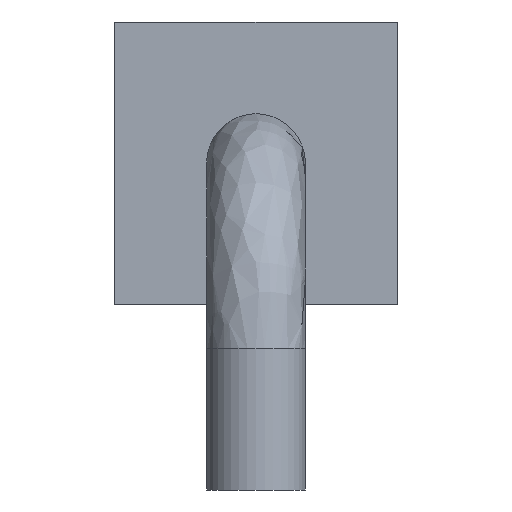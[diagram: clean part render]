
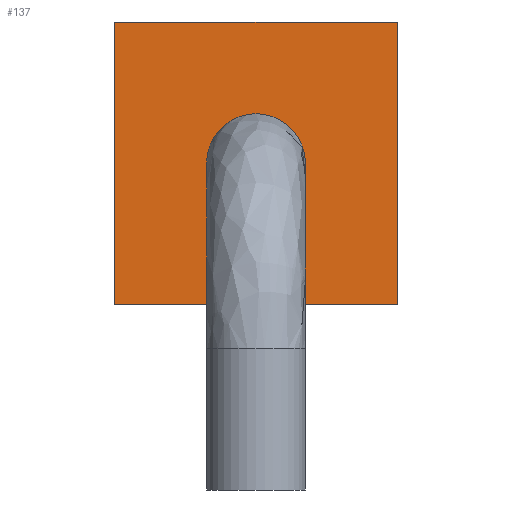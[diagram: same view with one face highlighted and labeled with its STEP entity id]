
A CAD part, front view. The second image highlights one B-rep face of the part: STEP entity #137.
In plain terms, the highlighted planar face has unit normal (0, -1, 0).
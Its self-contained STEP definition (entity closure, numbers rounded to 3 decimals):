
#7=CARTESIAN_POINT('',(30.0,-12.0,-30.0));
#8=VERTEX_POINT('',#7);
#9=CARTESIAN_POINT('',(-30.0,-12.0,-30.0));
#10=VERTEX_POINT('',#9);
#11=CARTESIAN_POINT('',(30.0,-12.0,-30.0));
#12=DIRECTION('',(-1.0,0.0,0.0));
#13=VECTOR('',#12,60.0);
#14=LINE('',#11,#13);
#15=EDGE_CURVE('',#8,#10,#14,.T.);
#47=CARTESIAN_POINT('',(-30.0,-12.0,30.0));
#48=VERTEX_POINT('',#47);
#49=CARTESIAN_POINT('',(-30.0,-12.0,-30.0));
#50=DIRECTION('',(0.0,0.0,1.0));
#51=VECTOR('',#50,60.0);
#52=LINE('',#49,#51);
#53=EDGE_CURVE('',#10,#48,#52,.T.);
#78=CARTESIAN_POINT('',(30.0,-12.0,30.0));
#79=VERTEX_POINT('',#78);
#80=CARTESIAN_POINT('',(-30.0,-12.0,30.0));
#81=DIRECTION('',(1.0,0.0,0.0));
#82=VECTOR('',#81,60.0);
#83=LINE('',#80,#82);
#84=EDGE_CURVE('',#48,#79,#83,.T.);
#109=CARTESIAN_POINT('',(30.0,-12.0,30.0));
#110=DIRECTION('',(0.0,0.0,-1.0));
#111=VECTOR('',#110,60.0);
#112=LINE('',#109,#111);
#113=EDGE_CURVE('',#79,#8,#112,.T.);
#126=CARTESIAN_POINT('',(36.001,-12.0,-36.001));
#127=DIRECTION('',(0.0,1.0,0.0));
#128=DIRECTION('',(-1.0,0.0,0.0));
#129=AXIS2_PLACEMENT_3D('',#126,#127,#128);
#130=PLANE('',#129);
#131=ORIENTED_EDGE('',*,*,#113,.F.);
#132=ORIENTED_EDGE('',*,*,#84,.F.);
#133=ORIENTED_EDGE('',*,*,#53,.F.);
#134=ORIENTED_EDGE('',*,*,#15,.F.);
#135=EDGE_LOOP('',(#131,#132,#133,#134));
#136=FACE_OUTER_BOUND('',#135,.T.);
#137=ADVANCED_FACE('',(#136),#130,.F.);
